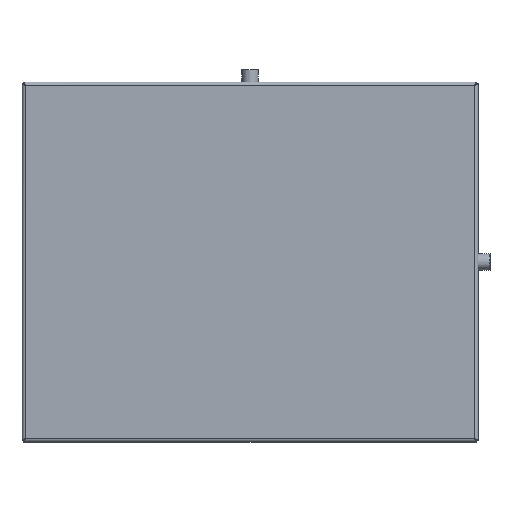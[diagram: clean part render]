
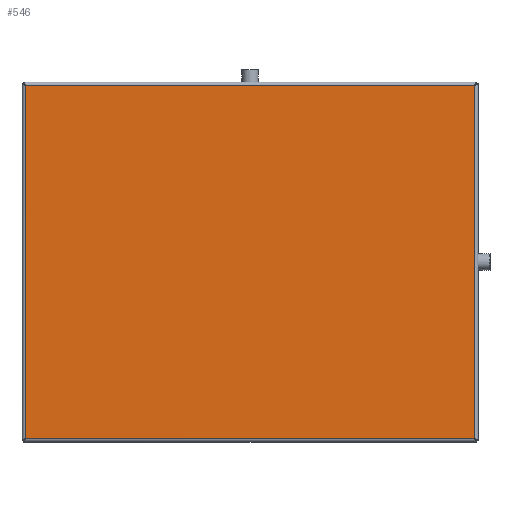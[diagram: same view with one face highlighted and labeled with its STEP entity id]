
A CAD part, front view. The second image highlights one B-rep face of the part: STEP entity #546.
In plain terms, the highlighted planar face has unit normal (0, -1, 0).
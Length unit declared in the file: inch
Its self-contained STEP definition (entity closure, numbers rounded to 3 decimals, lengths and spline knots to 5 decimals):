
#440 = FACE_OUTER_BOUND ( 'NONE', #2602, .T. ) ;
#546 = ADVANCED_FACE ( 'NONE', ( #440 ), #630, .T. ) ;
#614 = DIRECTION ( 'NONE',  ( 0., 0., -1. ) ) ;
#616 = DIRECTION ( 'NONE',  ( 0., -1., 0. ) ) ;
#630 = PLANE ( 'NONE',  #3106 ) ;
#653 = CARTESIAN_POINT ( 'NONE',  ( -25.7011, -0.9029, -15.82446 ) ) ;
#902 = VECTOR ( 'NONE', #3049, 39.37008 ) ;
#1560 = VECTOR ( 'NONE', #3011, 39.37008 ) ;
#1646 = LINE ( 'NONE', #3059, #1560 ) ;
#1761 = LINE ( 'NONE', #2549, #3097 ) ;
#1783 = ORIENTED_EDGE ( 'NONE', *, *, #3454, .T. ) ;
#2438 = LINE ( 'NONE', #3093, #902 ) ;
#2547 = DIRECTION ( 'NONE',  ( 1., 0., 0. ) ) ;
#2549 = CARTESIAN_POINT ( 'NONE',  ( -25.54615, -0.9029, -15.54786 ) ) ;
#2602 = EDGE_LOOP ( 'NONE', ( #3371, #3486, #2625, #1783 ) ) ;
#2614 = VERTEX_POINT ( 'NONE', #3610 ) ;
#2625 = ORIENTED_EDGE ( 'NONE', *, *, #3411, .T. ) ;
#2761 = VERTEX_POINT ( 'NONE', #3541 ) ;
#2953 = VECTOR ( 'NONE', #3027, 39.37008 ) ;
#3011 = DIRECTION ( 'NONE',  ( 0., 0., -1. ) ) ;
#3027 = DIRECTION ( 'NONE',  ( -1., 0., 0. ) ) ;
#3049 = DIRECTION ( 'NONE',  ( 0., 0., 1. ) ) ;
#3059 = CARTESIAN_POINT ( 'NONE',  ( -25.4245, -0.9029, 14.02058 ) ) ;
#3060 = LINE ( 'NONE', #3073, #2953 ) ;
#3073 = CARTESIAN_POINT ( 'NONE',  ( 12.14394, -0.9029, 13.89894 ) ) ;
#3093 = CARTESIAN_POINT ( 'NONE',  ( 12.0223, -0.9029, -15.66951 ) ) ;
#3097 = VECTOR ( 'NONE', #2547, 39.37008 ) ;
#3104 = VERTEX_POINT ( 'NONE', #3439 ) ;
#3106 = AXIS2_PLACEMENT_3D ( 'NONE', #653, #616, #614 ) ;
#3358 = CARTESIAN_POINT ( 'NONE',  ( -25.4245, -0.9029, -15.54786 ) ) ;
#3362 = VERTEX_POINT ( 'NONE', #3358 ) ;
#3371 = ORIENTED_EDGE ( 'NONE', *, *, #3406, .T. ) ;
#3406 = EDGE_CURVE ( 'NONE', #2614, #3104, #2438, .T. ) ;
#3408 = EDGE_CURVE ( 'NONE', #3104, #2761, #3060, .T. ) ;
#3411 = EDGE_CURVE ( 'NONE', #2761, #3362, #1646, .T. ) ;
#3439 = CARTESIAN_POINT ( 'NONE',  ( 12.0223, -0.9029, 13.89894 ) ) ;
#3454 = EDGE_CURVE ( 'NONE', #3362, #2614, #1761, .T. ) ;
#3486 = ORIENTED_EDGE ( 'NONE', *, *, #3408, .T. ) ;
#3541 = CARTESIAN_POINT ( 'NONE',  ( -25.4245, -0.9029, 13.89894 ) ) ;
#3610 = CARTESIAN_POINT ( 'NONE',  ( 12.0223, -0.9029, -15.54786 ) ) ;
